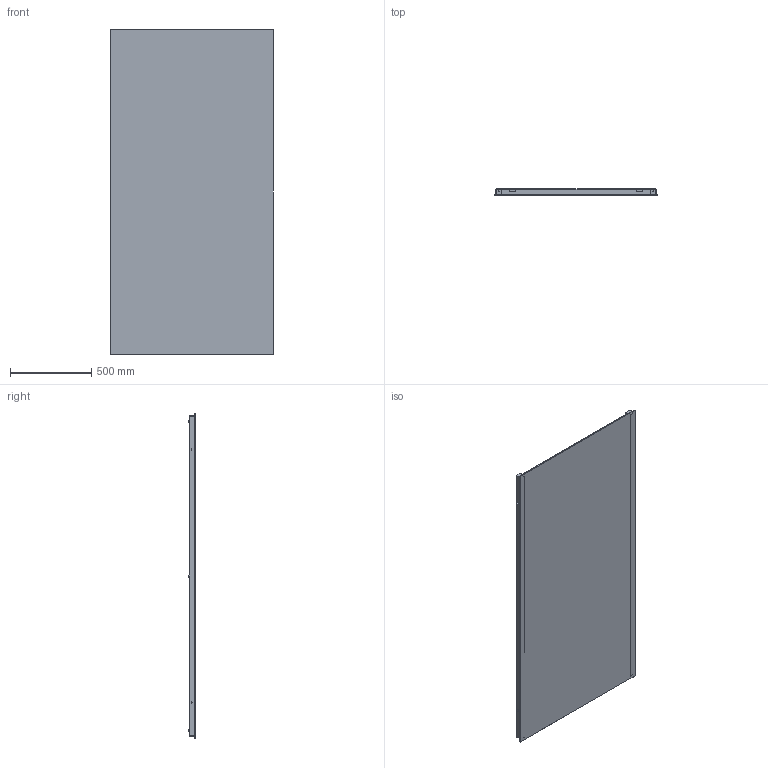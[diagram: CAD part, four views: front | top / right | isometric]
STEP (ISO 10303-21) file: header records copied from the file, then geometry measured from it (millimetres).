
FILE_DESCRIPTION(/* description */ (''),/* implementation_level */ '2;1');
FILE_NAME(/* name */ 'MGR100',/* time_stamp */ '2026-06-09T16:58:52+02:00',/* author */ (''),/* organization */ (''),/* preprocessor_version */ 'ST-DEVELOPER v16.5',/* originating_system */ '',/* authorisation */ '');
FILE_SCHEMA (('AUTOMOTIVE_DESIGN'));
Length unit declared in the file: millimetre
Products named in the file (1): Document
Bounding box: 1002 x 44 x 2000 mm (x, y, z)
Volume: 11556003.7 mm3; surface area: 6119112.6 mm2
Topology: 19 solids, 19 shells, 278 faces, 789 edges, 528 vertices
Faces by surface type: bspline 242, plane 36
Entity records: 11597 total; most frequent: CARTESIAN_POINT 6996, ORIENTED_EDGE 1536, EDGE_CURVE 768, VERTEX_POINT 528, B_SPLINE_CURVE_WITH_KNOTS 426, EDGE_LOOP 342, ADVANCED_FACE 278, FACE_OUTER_BOUND 278
